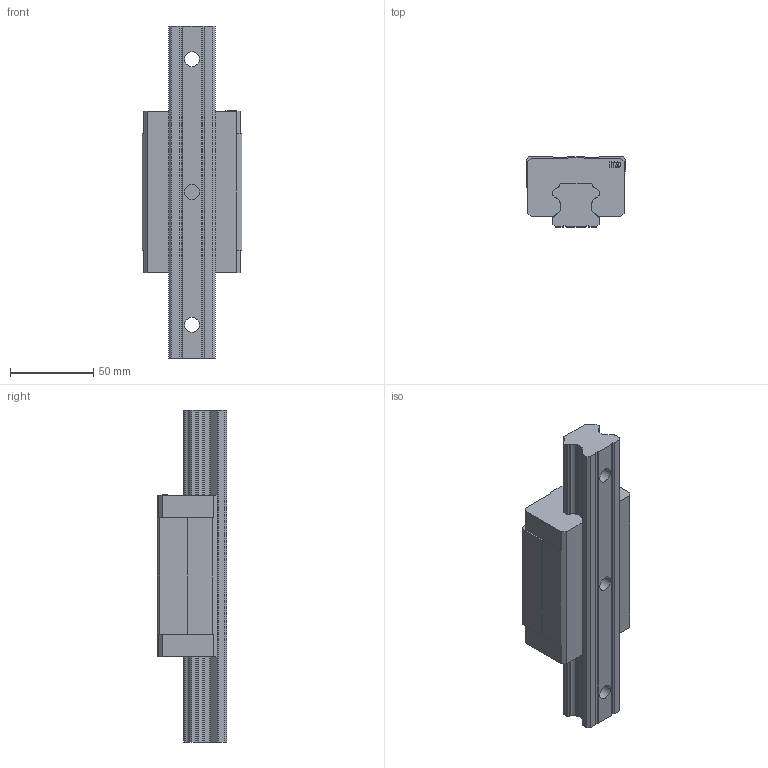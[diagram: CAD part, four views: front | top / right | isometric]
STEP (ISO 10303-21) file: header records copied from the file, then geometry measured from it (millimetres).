
FILE_DESCRIPTION (( 'STEP AP214' ), '1' );
FILE_NAME ('7.1074 Lineaarikelkka HTL30CA.STEP', '2026-03-12T13:54:54', ( '' ), ( '' ), 'SwSTEP 2.0', 'SolidWorks 2025', '' );
FILE_SCHEMA (( 'AUTOMOTIVE_DESIGN' ));
Length unit declared in the file: millimetre
Products named in the file (6): HGH30C_ASM_ASM_ASM; 7.1074 Lineaarikelkka HTL30CA; HGH30_1; HGR30_1; HGH30_ASM_2_ASM_ASM_ASM; HTL30C_ASM_ASM
Assembly tree (5 placements, depth 5):
  7.1074 Lineaarikelkka HTL30CA
    HTL30C_ASM_ASM
      HGH30C_ASM_ASM_ASM
        HGH30_ASM_2_ASM_ASM_ASM
          HGH30_1
          HGR30_1
Bounding box: 60 x 42 x 200 mm (x, y, z)
Volume: 272764.6 mm3; surface area: 52460.6 mm2
Topology: 2 solids, 2 shells, 791 faces, 2235 edges, 1490 vertices
Faces by surface type: plane 670, cylinder 62, bspline 59
Entity records: 36950 total; most frequent: CARTESIAN_POINT 7883, ORIENTED_EDGE 4470, DIRECTION 3683, EDGE_CURVE 2235, VECTOR 1991, LINE 1991, VERTEX_POINT 1490, AXIS2_PLACEMENT_3D 846
